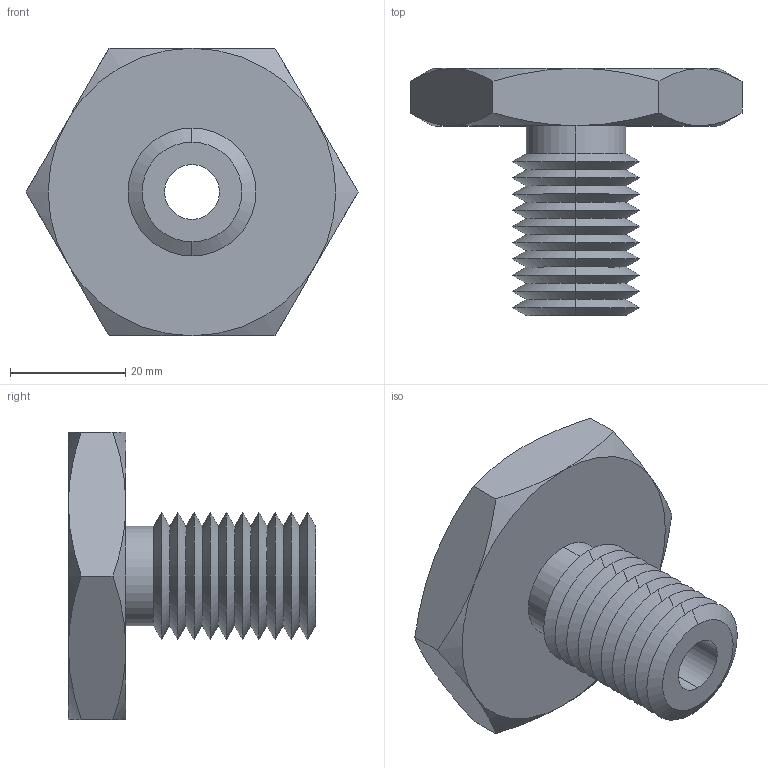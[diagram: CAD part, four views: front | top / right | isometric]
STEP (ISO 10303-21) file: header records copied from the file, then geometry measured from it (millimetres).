
FILE_DESCRIPTION (( 'STEP AP203' ), '1' );
FILE_NAME ('63302.W5088_0,37 UNC-16.step', '2013-12-08T11:37:38', ( 'User' ), ( '' ), 'SwSTEP 2.0', 'SolidWorks 2009', '' );
FILE_SCHEMA (( 'CONFIG_CONTROL_DESIGN' ));
Length unit declared in the file: millimetre
Products named in the file (1): 63302.W5088_0,37 UNC-16
Bounding box: 57.73 x 43 x 50 mm (x, y, z)
Volume: 28120.6 mm3; surface area: 10747.1 mm2
Topology: 1 solids, 1 shells, 67 faces, 138 edges, 74 vertices
Faces by surface type: cone 54, plane 9, cylinder 4
Entity records: 1939 total; most frequent: CARTESIAN_POINT 464, DIRECTION 312, ORIENTED_EDGE 276, EDGE_CURVE 138, AXIS2_PLACEMENT_3D 130, VERTEX_POINT 74, EDGE_LOOP 70, ADVANCED_FACE 67
